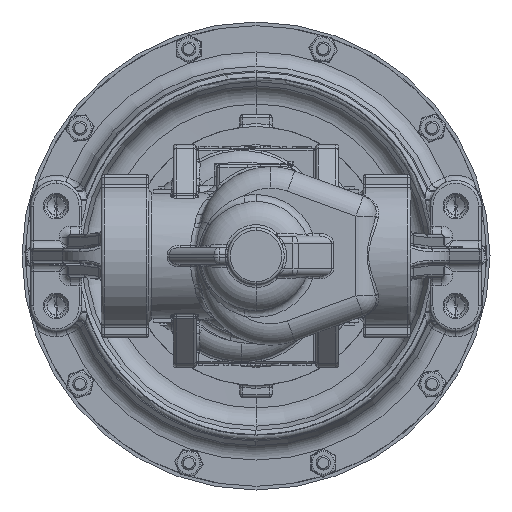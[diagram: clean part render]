
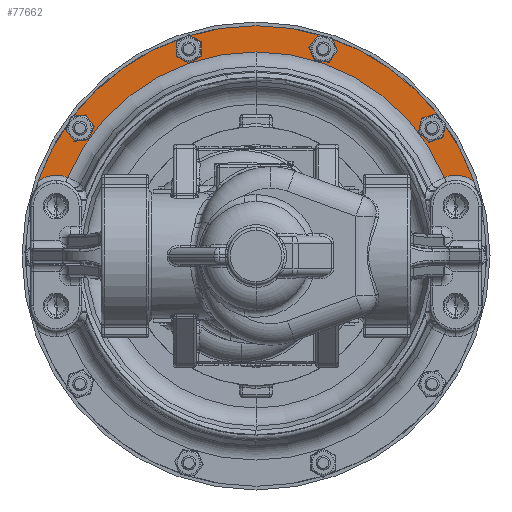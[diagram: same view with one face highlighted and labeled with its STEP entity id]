
A CAD part, front view. The second image highlights one B-rep face of the part: STEP entity #77662.
In plain terms, the highlighted planar face has unit normal (0, -1, 0) as drawn and (0, 1, 0) by its records, which use the part's own axes.
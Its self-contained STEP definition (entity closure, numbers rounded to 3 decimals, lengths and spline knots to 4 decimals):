
#6446 = ORIENTED_EDGE ( 'NONE', *, *, #13332, .F. ) ;
#6554 = ORIENTED_EDGE ( 'NONE', *, *, #13038, .T. ) ;
#6567 = ORIENTED_EDGE ( 'NONE', *, *, #13030, .T. ) ;
#6584 = ORIENTED_EDGE ( 'NONE', *, *, #13023, .T. ) ;
#6586 = ORIENTED_EDGE ( 'NONE', *, *, #83403, .T. ) ;
#6850 = ORIENTED_EDGE ( 'NONE', *, *, #83406, .T. ) ;
#7443 = ORIENTED_EDGE ( 'NONE', *, *, #83415, .F. ) ;
#7483 = ORIENTED_EDGE ( 'NONE', *, *, #83410, .T. ) ;
#7855 = ORIENTED_EDGE ( 'NONE', *, *, #13034, .T. ) ;
#8256 = ORIENTED_EDGE ( 'NONE', *, *, #83399, .T. ) ;
#8446 = ORIENTED_EDGE ( 'NONE', *, *, #83401, .T. ) ;
#8671 = ORIENTED_EDGE ( 'NONE', *, *, #83413, .T. ) ;
#8675 = ORIENTED_EDGE ( 'NONE', *, *, #83408, .T. ) ;
#8722 = ORIENTED_EDGE ( 'NONE', *, *, #12818, .T. ) ;
#12818 = EDGE_CURVE ( 'NONE', #103267, #110311, #59010, .T. ) ;
#13023 = EDGE_CURVE ( 'NONE', #97035, #97037, #59256, .T. ) ;
#13030 = EDGE_CURVE ( 'NONE', #97043, #97011, #59266, .T. ) ;
#13034 = EDGE_CURVE ( 'NONE', #96777, #96784, #59276, .T. ) ;
#13038 = EDGE_CURVE ( 'NONE', #96772, #96771, #59289, .T. ) ;
#13332 = EDGE_CURVE ( 'NONE', #96834, #96851, #75228, .T. ) ;
#15533 = CIRCLE ( 'NONE', #19721, 0.1528 ) ;
#15537 = CIRCLE ( 'NONE', #19719, 0.1528 ) ;
#15539 = CIRCLE ( 'NONE', #19723, 0.1528 ) ;
#15541 = CIRCLE ( 'NONE', #19725, 0.1528 ) ;
#15543 = CIRCLE ( 'NONE', #19727, 0.54 ) ;
#15545 = CIRCLE ( 'NONE', #19729, 4.035 ) ;
#15547 = CIRCLE ( 'NONE', #19731, 0.54 ) ;
#15549 = CIRCLE ( 'NONE', #19733, 3.5756 ) ;
#19507 = AXIS2_PLACEMENT_3D ( 'NONE', #70427, #70428, #70429 ) ;
#19608 = AXIS2_PLACEMENT_3D ( 'NONE', #73507, #73509, #73511 ) ;
#19612 = AXIS2_PLACEMENT_3D ( 'NONE', #73531, #73533, #73535 ) ;
#19616 = AXIS2_PLACEMENT_3D ( 'NONE', #73556, #73558, #73560 ) ;
#19620 = AXIS2_PLACEMENT_3D ( 'NONE', #73581, #73583, #73585 ) ;
#19719 = AXIS2_PLACEMENT_3D ( 'NONE', #48472, #48474, #48476 ) ;
#19721 = AXIS2_PLACEMENT_3D ( 'NONE', #48478, #48479, #48480 ) ;
#19723 = AXIS2_PLACEMENT_3D ( 'NONE', #48483, #48485, #48486 ) ;
#19725 = AXIS2_PLACEMENT_3D ( 'NONE', #48489, #48491, #48492 ) ;
#19727 = AXIS2_PLACEMENT_3D ( 'NONE', #48495, #48497, #48498 ) ;
#19729 = AXIS2_PLACEMENT_3D ( 'NONE', #48501, #48503, #48504 ) ;
#19731 = AXIS2_PLACEMENT_3D ( 'NONE', #48507, #48509, #48510 ) ;
#19733 = AXIS2_PLACEMENT_3D ( 'NONE', #48513, #48515, #48516 ) ;
#19846 = AXIS2_PLACEMENT_3D ( 'NONE', #77475, #77477, #77479 ) ;
#21144 = AXIS2_PLACEMENT_3D ( 'NONE', #134492, #134365, #134497 ) ;
#48472 = CARTESIAN_POINT ( 'NONE',  ( 3.0844, 0.38, 2.2409 ) ) ;
#48474 = DIRECTION ( 'NONE',  ( 0., -1., 0. ) ) ;
#48476 = DIRECTION ( 'NONE',  ( 0., 0., -1. ) ) ;
#48478 = CARTESIAN_POINT ( 'NONE',  ( 1.1781, 0.38, 3.6259 ) ) ;
#48479 = DIRECTION ( 'NONE',  ( 0., -1., 0. ) ) ;
#48480 = DIRECTION ( 'NONE',  ( 0., 0., -1. ) ) ;
#48483 = CARTESIAN_POINT ( 'NONE',  ( -1.1781, 0.38, 3.6259 ) ) ;
#48485 = DIRECTION ( 'NONE',  ( 0., -1., 0. ) ) ;
#48486 = DIRECTION ( 'NONE',  ( 0., 0., -1. ) ) ;
#48489 = CARTESIAN_POINT ( 'NONE',  ( -3.0844, 0.38, 2.2409 ) ) ;
#48491 = DIRECTION ( 'NONE',  ( 0., -1., 0. ) ) ;
#48492 = DIRECTION ( 'NONE',  ( 0., 0., -1. ) ) ;
#48495 = CARTESIAN_POINT ( 'NONE',  ( -3.5, 0.38, 0.875 ) ) ;
#48497 = DIRECTION ( 'NONE',  ( 0., -1., 0. ) ) ;
#48498 = DIRECTION ( 'NONE',  ( 0., 0., -1. ) ) ;
#48501 = CARTESIAN_POINT ( 'NONE',  ( 0., 0.38, 0. ) ) ;
#48503 = DIRECTION ( 'NONE',  ( 0., 1., 0. ) ) ;
#48504 = DIRECTION ( 'NONE',  ( 0., 0., -1. ) ) ;
#48507 = CARTESIAN_POINT ( 'NONE',  ( 3.5, 0.38, 0.875 ) ) ;
#48509 = DIRECTION ( 'NONE',  ( 0., -1., 0. ) ) ;
#48510 = DIRECTION ( 'NONE',  ( 0., 0., -1. ) ) ;
#48513 = CARTESIAN_POINT ( 'NONE',  ( 0., 0.38, 0. ) ) ;
#48515 = DIRECTION ( 'NONE',  ( 0., 1., 0. ) ) ;
#48516 = DIRECTION ( 'NONE',  ( 0., 0., 1. ) ) ;
#59010 = CIRCLE ( 'NONE', #19507, 4.035 ) ;
#59256 = CIRCLE ( 'NONE', #19608, 0.1528 ) ;
#59266 = CIRCLE ( 'NONE', #19612, 0.1528 ) ;
#59276 = CIRCLE ( 'NONE', #19616, 0.1528 ) ;
#59289 = CIRCLE ( 'NONE', #19620, 0.1528 ) ;
#70427 = CARTESIAN_POINT ( 'NONE',  ( 0., 0.38, 0. ) ) ;
#70428 = DIRECTION ( 'NONE',  ( 0., 1., 0. ) ) ;
#70429 = DIRECTION ( 'NONE',  ( 0., 0., -1. ) ) ;
#73507 = CARTESIAN_POINT ( 'NONE',  ( -3.0844, 0.38, 2.2409 ) ) ;
#73509 = DIRECTION ( 'NONE',  ( 0., -1., 0. ) ) ;
#73511 = DIRECTION ( 'NONE',  ( 0., 0., -1. ) ) ;
#73531 = CARTESIAN_POINT ( 'NONE',  ( -1.1781, 0.38, 3.6259 ) ) ;
#73533 = DIRECTION ( 'NONE',  ( 0., -1., 0. ) ) ;
#73535 = DIRECTION ( 'NONE',  ( 0., 0., -1. ) ) ;
#73556 = CARTESIAN_POINT ( 'NONE',  ( 1.1781, 0.38, 3.6259 ) ) ;
#73558 = DIRECTION ( 'NONE',  ( 0., -1., 0. ) ) ;
#73560 = DIRECTION ( 'NONE',  ( 0., 0., -1. ) ) ;
#73581 = CARTESIAN_POINT ( 'NONE',  ( 3.0844, 0.38, 2.2409 ) ) ;
#73583 = DIRECTION ( 'NONE',  ( 0., -1., 0. ) ) ;
#73585 = DIRECTION ( 'NONE',  ( 0., 0., -1. ) ) ;
#75228 = CIRCLE ( 'NONE', #19846, 3.5756 ) ;
#76598 = FACE_BOUND ( 'NONE', #132653, .T. ) ;
#76608 = FACE_BOUND ( 'NONE', #133196, .T. ) ;
#76616 = FACE_OUTER_BOUND ( 'NONE', #132660, .T. ) ;
#76618 = FACE_BOUND ( 'NONE', #133025, .T. ) ;
#76620 = FACE_BOUND ( 'NONE', #132877, .T. ) ;
#77475 = CARTESIAN_POINT ( 'NONE',  ( 0., 0.38, 0. ) ) ;
#77477 = DIRECTION ( 'NONE',  ( 0., 1., 0. ) ) ;
#77479 = DIRECTION ( 'NONE',  ( 0., 0., 1. ) ) ;
#77662 = ADVANCED_FACE ( 'NONE', ( #76620, #76598, #76608, #76618, #76616 ), #134490, .F. ) ;
#83399 = EDGE_CURVE ( 'NONE', #96771, #96772, #15537, .T. ) ;
#83401 = EDGE_CURVE ( 'NONE', #96784, #96777, #15533, .T. ) ;
#83403 = EDGE_CURVE ( 'NONE', #97011, #97043, #15539, .T. ) ;
#83406 = EDGE_CURVE ( 'NONE', #97037, #97035, #15541, .T. ) ;
#83408 = EDGE_CURVE ( 'NONE', #97677, #96290, #15543, .T. ) ;
#83410 = EDGE_CURVE ( 'NONE', #96290, #103267, #15545, .T. ) ;
#83413 = EDGE_CURVE ( 'NONE', #110311, #96851, #15547, .T. ) ;
#83415 = EDGE_CURVE ( 'NONE', #97677, #96834, #15549, .T. ) ;
#86771 = CARTESIAN_POINT ( 'NONE',  ( -3.8153, 0.38, 1.3134 ) ) ;
#87068 = CARTESIAN_POINT ( 'NONE',  ( 3.0844, 0.38, 2.0881 ) ) ;
#87069 = CARTESIAN_POINT ( 'NONE',  ( 3.0844, 0.38, 2.3937 ) ) ;
#87072 = CARTESIAN_POINT ( 'NONE',  ( 1.1781, 0.38, 3.7787 ) ) ;
#87075 = CARTESIAN_POINT ( 'NONE',  ( 1.1781, 0.38, 3.4731 ) ) ;
#87101 = CARTESIAN_POINT ( 'NONE',  ( 0., 0.38, 3.5756 ) ) ;
#87110 = CARTESIAN_POINT ( 'NONE',  ( 3.3, 0.38, 1.3766 ) ) ;
#87188 = CARTESIAN_POINT ( 'NONE',  ( -1.1781, 0.38, 3.4731 ) ) ;
#87199 = CARTESIAN_POINT ( 'NONE',  ( -3.0844, 0.38, 2.3937 ) ) ;
#87200 = CARTESIAN_POINT ( 'NONE',  ( -3.0844, 0.38, 2.0881 ) ) ;
#87203 = CARTESIAN_POINT ( 'NONE',  ( -1.1781, 0.38, 3.7787 ) ) ;
#87501 = CARTESIAN_POINT ( 'NONE',  ( -3.3, 0.38, 1.3766 ) ) ;
#88405 = CARTESIAN_POINT ( 'NONE',  ( 0., 0.38, 4.035 ) ) ;
#96290 = VERTEX_POINT ( 'NONE', #86771 ) ;
#96771 = VERTEX_POINT ( 'NONE', #87068 ) ;
#96772 = VERTEX_POINT ( 'NONE', #87069 ) ;
#96777 = VERTEX_POINT ( 'NONE', #87072 ) ;
#96784 = VERTEX_POINT ( 'NONE', #87075 ) ;
#96834 = VERTEX_POINT ( 'NONE', #87101 ) ;
#96851 = VERTEX_POINT ( 'NONE', #87110 ) ;
#97011 = VERTEX_POINT ( 'NONE', #87188 ) ;
#97035 = VERTEX_POINT ( 'NONE', #87199 ) ;
#97037 = VERTEX_POINT ( 'NONE', #87200 ) ;
#97043 = VERTEX_POINT ( 'NONE', #87203 ) ;
#97677 = VERTEX_POINT ( 'NONE', #87501 ) ;
#103267 = VERTEX_POINT ( 'NONE', #88405 ) ;
#110311 = VERTEX_POINT ( 'NONE', #132725 ) ;
#132653 = EDGE_LOOP ( 'NONE', ( #7855, #8446 ) ) ;
#132660 = EDGE_LOOP ( 'NONE', ( #8675, #7483, #8722, #8671, #6446, #7443 ) ) ;
#132725 = CARTESIAN_POINT ( 'NONE',  ( 3.8153, 0.38, 1.3134 ) ) ;
#132877 = EDGE_LOOP ( 'NONE', ( #6554, #8256 ) ) ;
#133025 = EDGE_LOOP ( 'NONE', ( #6584, #6850 ) ) ;
#133196 = EDGE_LOOP ( 'NONE', ( #6567, #6586 ) ) ;
#134365 = DIRECTION ( 'NONE',  ( 0., -1., 0. ) ) ;
#134490 = PLANE ( 'NONE',  #21144 ) ;
#134492 = CARTESIAN_POINT ( 'NONE',  ( 4.125, 0.38, 0. ) ) ;
#134497 = DIRECTION ( 'NONE',  ( 0., 0., -1. ) ) ;
